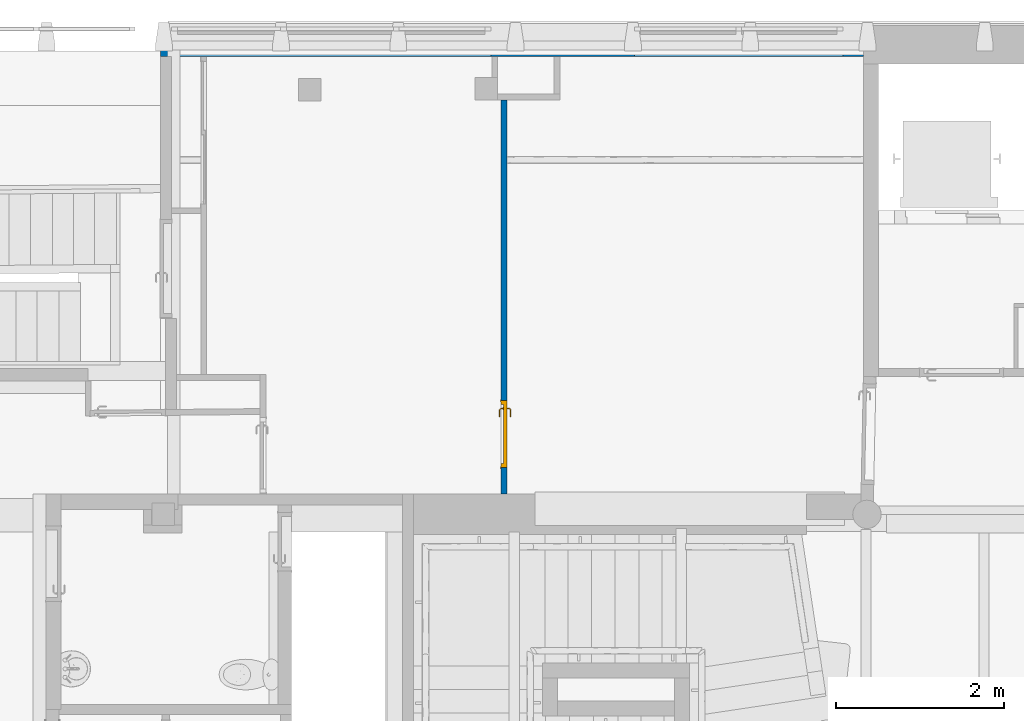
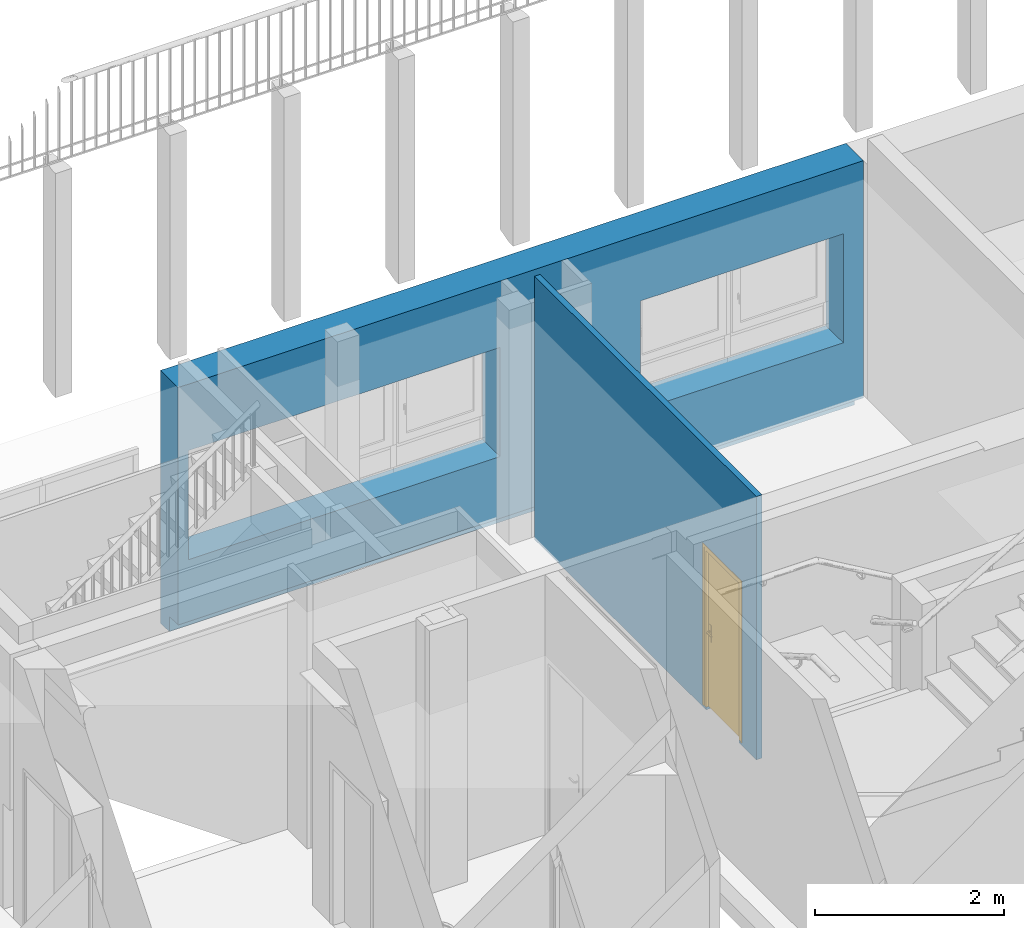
# One storey, part 43 of 65: 2 walls, 1 door, 4 openings.
"""IFC4 building model written with IfcOpenShell, lengths in metres."""

import ifcopenshell
import ifcopenshell.guid

model = None  # the IFC model being written
_history = None  # IfcOwnerHistory: only IFC2X3 demands one
_inside = {}  # id of a spatial element -> (the spatial element, [elements in it])
_under = {}  # id of a project, library or spatial element -> (it, [spatial elements below it])
_declared = {}  # id of a project -> (the project, [libraries it declares])
_typed = {}  # id of a type object -> (the type object, [elements of that type])
_made_of = {}  # id of a material, layer set ... -> (it, [elements and type objects made of it])


def new_model(schema):
    """Start an empty IFC model of exactly this schema.

    Asked for "IFC4X3", IfcOpenShell would pick the latest addendum, in which some entities
    have other attributes; the version numbers below select the first issue.
    IFC2X3 requires an IfcOwnerHistory on every rooted entity: one is made here for all.
    """
    global model, _history
    if schema == "IFC4X3":
        model = ifcopenshell.file(schema_version=(4, 3, 0, 0))
    else:
        model = ifcopenshell.file(schema=schema)
    _inside.clear()
    _under.clear()
    _declared.clear()
    _typed.clear()
    _made_of.clear()
    _history = None
    if model.schema == "IFC2X3":
        org = make("IfcOrganization", Name="unknown")
        user = make(
            "IfcPersonAndOrganization",
            ThePerson=make("IfcPerson", FamilyName="unknown"),
            TheOrganization=org,
        )
        app = make(
            "IfcApplication",
            ApplicationDeveloper=org,
            Version="unknown",
            ApplicationFullName="unknown",
            ApplicationIdentifier="unknown",
        )
        _history = make(
            "IfcOwnerHistory",
            OwningUser=user,
            OwningApplication=app,
            ChangeAction="ADDED",
            CreationDate=0,
        )
    return model


def make(cls, **values):
    """One entity of the class cls with the attributes given. An attribute that is None is left unset."""
    return model.create_entity(
        cls, **{name: value for name, value in values.items() if value is not None}
    )


def entity(cls, *values):
    """Any entity or typed value of the class cls, its attributes in the order of the schema. None: left unset."""
    e = model.create_entity(cls)
    for i, value in enumerate(values):
        if value is not None:
            e[i] = value
    return e


def rooted(cls, **values):
    """An entity with a GlobalId (a new one), such as an element, a storey or a relation."""
    return make(cls, GlobalId=ifcopenshell.guid.new(), OwnerHistory=_history, **values)


def si_unit(unit_type, name, prefix=None):
    """IfcSIUnit, for example si_unit("LENGTHUNIT", "METRE", prefix="MILLI")."""
    return make("IfcSIUnit", UnitType=unit_type, Prefix=prefix, Name=name)


def converted_unit(unit_type, name, factor, base, dimensions=None, offset=None):
    """IfcConversionBasedUnit, such as the inch: factor (a typed value) times the base unit."""
    return make(
        "IfcConversionBasedUnit"
        if offset is None
        else "IfcConversionBasedUnitWithOffset",
        ConversionOffset=offset,
        Dimensions=None
        if dimensions is None
        else entity("IfcDimensionalExponents", *dimensions),
        UnitType=unit_type,
        Name=name,
        ConversionFactor=make(
            "IfcMeasureWithUnit", ValueComponent=factor, UnitComponent=base
        ),
    )


def derived_unit(unit_type, elements):
    """IfcDerivedUnit: a product of units, each with its exponent."""
    return make(
        "IfcDerivedUnit",
        Elements=[
            make("IfcDerivedUnitElement", Unit=unit, Exponent=power)
            for unit, power in elements
        ],
        UnitType=unit_type,
    )


def assignment(units):
    """IfcUnitAssignment: the units of a project."""
    return None if units is None else make("IfcUnitAssignment", Units=units)


def point(xyz):
    """IfcCartesianPoint."""
    return None if xyz is None else make("IfcCartesianPoint", Coordinates=xyz)


def direction(xyz):
    """IfcDirection."""
    return None if xyz is None else make("IfcDirection", DirectionRatios=xyz)


def frame(location, z_axis=None, x_axis=None):
    """IfcAxis2Placement3D, a coordinate frame: its origin and axes. An axis left out is left unset."""
    return make(
        "IfcAxis2Placement3D",
        Location=point(location),
        Axis=direction(z_axis),
        RefDirection=direction(x_axis),
    )


def origin():
    """The frame at (0, 0, 0) with its axes left unset."""
    return frame((0.0, 0.0, 0.0))


def place(relative_to, where):
    """IfcLocalPlacement: puts the frame where relative to a parent placement (None: the world)."""
    return make(
        "IfcLocalPlacement", PlacementRelTo=relative_to, RelativePlacement=where
    )


def context(
    kind, dimensions, precision=None, world=None, true_north=None, identifier=None
):
    """IfcGeometricRepresentationContext, for example the 3D "Model" context."""
    return make(
        "IfcGeometricRepresentationContext",
        ContextIdentifier=identifier,
        ContextType=kind,
        CoordinateSpaceDimension=dimensions,
        Precision=precision,
        WorldCoordinateSystem=world,
        TrueNorth=true_north,
    )


def subcontext(parent, identifier, kind, view, scale=None):
    """IfcGeometricRepresentationSubContext, for example "Body" below "Model"."""
    return make(
        "IfcGeometricRepresentationSubContext",
        ContextIdentifier=identifier,
        ContextType=kind,
        ParentContext=parent,
        TargetScale=scale,
        TargetView=view,
    )


def project(units=None, contexts=None):
    """IfcProject with its units and contexts."""
    return rooted(
        "IfcProject",
        Name="project",
        RepresentationContexts=contexts,
        UnitsInContext=assignment(units),
    )


def spatial(cls, under=None, at=None, **own):
    """A site, building, storey or space (cls), placed at a placement, below another one or the project."""
    s = rooted(cls, ObjectPlacement=at, **own)
    if under is not None:
        _under.setdefault(under.id(), (under, []))[1].append(s)
    return s


def point_list(points):
    """IfcCartesianPointList2D or 3D."""
    cls = (
        "IfcCartesianPointList2D" if len(points[0]) == 2 else "IfcCartesianPointList3D"
    )
    return make(cls, CoordList=points)


def indexed_curve(points, segments=None, self_intersect=None):
    """IfcIndexedPolyCurve: lines and arcs through numbered points (the first is 1)."""
    return make(
        "IfcIndexedPolyCurve",
        Points=point_list(points),
        Segments=segments,
        SelfIntersect=self_intersect,
    )


def outline(outer, holes=None, kind="AREA"):
    """IfcArbitraryClosedProfileDef: a profile drawn as a closed curve; with holes, ...WithVoids."""
    if holes is None:
        return make("IfcArbitraryClosedProfileDef", ProfileType=kind, OuterCurve=outer)
    return make(
        "IfcArbitraryProfileDefWithVoids",
        ProfileType=kind,
        OuterCurve=outer,
        InnerCurves=holes,
    )


def extrude(swept, where, along, depth):
    """IfcExtrudedAreaSolid: the profile swept, set in the frame where, extruded along a direction by depth."""
    return make(
        "IfcExtrudedAreaSolid",
        SweptArea=swept,
        Position=where,
        ExtrudedDirection=direction(along),
        Depth=depth,
    )


def polygons(points, faces, closed=None, point_numbers=None):
    """IfcPolygonalFaceSet: a face is its outer loop, then its inner loops; points numbered from 1."""
    made = []
    for loops in faces:
        if len(loops) == 1:
            made.append(make("IfcIndexedPolygonalFace", CoordIndex=loops[0]))
        else:
            made.append(
                make(
                    "IfcIndexedPolygonalFaceWithVoids",
                    CoordIndex=loops[0],
                    InnerCoordIndices=loops[1:],
                )
            )
    return make(
        "IfcPolygonalFaceSet",
        Coordinates=point_list(points),
        Closed=closed,
        Faces=made,
        PnIndex=point_numbers,
    )


def shape(context_of_items, identifier, shape_type, items):
    """IfcShapeRepresentation: the items that make up one representation, for example the "Body"."""
    return make(
        "IfcShapeRepresentation",
        ContextOfItems=context_of_items,
        RepresentationIdentifier=identifier,
        RepresentationType=shape_type,
        Items=items,
    )


def source(mapping_origin, context_of_items, identifier, shape_type, items):
    """IfcRepresentationMap: a shape defined once, which mapped items show again and again."""
    return make(
        "IfcRepresentationMap",
        MappingOrigin=mapping_origin,
        MappedRepresentation=shape(context_of_items, identifier, shape_type, items),
    )


def transform(
    local_origin,
    x_axis=None,
    y_axis=None,
    z_axis=None,
    scale=None,
    scale2=None,
    scale3=None,
    uniform=True,
):
    """IfcCartesianTransformationOperator3D, or its non-uniform kind. x_axis, y_axis, z_axis: its Axis1, 2, 3."""
    if uniform:
        return make(
            "IfcCartesianTransformationOperator3D",
            Axis1=direction(x_axis),
            Axis2=direction(y_axis),
            LocalOrigin=point(local_origin),
            Scale=scale,
            Axis3=direction(z_axis),
        )
    return make(
        "IfcCartesianTransformationOperator3DnonUniform",
        Axis1=direction(x_axis),
        Axis2=direction(y_axis),
        LocalOrigin=point(local_origin),
        Scale=scale,
        Axis3=direction(z_axis),
        Scale2=scale2,
        Scale3=scale3,
    )


def mapped(mapping_source, mapping_target):
    """IfcMappedItem: shows the shape of a source again, moved by a transform."""
    return make(
        "IfcMappedItem", MappingSource=mapping_source, MappingTarget=mapping_target
    )


def material(Name=None, Category=None):
    """IfcMaterial."""
    return make("IfcMaterial", Name=Name, Category=Category)


def material_list(materials):
    """IfcMaterialList."""
    return make("IfcMaterialList", Materials=materials)


def layer(
    of_material, thickness, ventilated=None, Name=None, Category=None, Priority=None
):
    """IfcMaterialLayer: one layer of a wall or slab, of a material (None: an air gap)."""
    return make(
        "IfcMaterialLayer",
        Material=of_material,
        LayerThickness=thickness,
        IsVentilated=ventilated,
        Name=Name,
        Category=Category,
        Priority=Priority,
    )


def layer_set(layers, Name=None):
    """IfcMaterialLayerSet."""
    return make("IfcMaterialLayerSet", MaterialLayers=layers, LayerSetName=Name)


def constituent(of_material, Name=None, Category=None, fraction=None):
    """IfcMaterialConstituent: one of the materials an element consists of."""
    return make(
        "IfcMaterialConstituent",
        Name=Name,
        Material=of_material,
        Fraction=fraction,
        Category=Category,
    )


def constituent_set(constituents=None, Name=None):
    """IfcMaterialConstituentSet."""
    return make(
        "IfcMaterialConstituentSet", Name=Name, MaterialConstituents=constituents
    )


def made_of(thing, what):
    """Note that an element or type object is made of a material, layer set ...; save() writes the relation."""
    if what is not None:
        _made_of.setdefault(what.id(), (what, []))[1].append(thing)
    return thing


def type_object(cls, material=None, **own):
    """A type object (cls), such as IfcWallType, which elements share."""
    return made_of(rooted(cls, **own), material)


def type_shapes(of_type, sources):
    """Give a type object the sources (RepresentationMaps) that its elements show as mapped items."""
    of_type.RepresentationMaps = sources


def element(
    cls,
    number,
    at=None,
    inside=None,
    cuts=None,
    type_object=None,
    material=None,
    context=None,
    identifier="Body",
    shape_type=None,
    held_by="IfcProductDefinitionShape",
    body=None,
    shapes=None,
    **own,
):
    """One element of the class cls, such as IfcWall. Its Tag is "e" and its number.

    at: its placement. inside: the storey or other place that contains it. cuts: it is an
    opening in that element (IfcRelVoidsElement). A single representation is given by context,
    identifier, shape_type and body (its items); several are given by shapes. held_by: the class
    of the entity that holds the representations. save() writes the other relations.
    """
    e = rooted(cls, Tag="e%d" % number, ObjectPlacement=at, **own)
    if body is not None:
        shapes = [shape(context, identifier, shape_type, body)]
    if shapes is not None:
        e.Representation = make(held_by, Representations=shapes)
    if inside is not None:
        _inside.setdefault(inside.id(), (inside, []))[1].append(e)
    if cuts is not None:
        rooted(
            "IfcRelVoidsElement", RelatingBuildingElement=cuts, RelatedOpeningElement=e
        )
    if type_object is not None:
        _typed.setdefault(type_object.id(), (type_object, []))[1].append(e)
    return made_of(e, material)


def fill(opening, filler):
    """IfcRelFillsElement: the door or window that sits in an opening."""
    return rooted(
        "IfcRelFillsElement",
        RelatingOpeningElement=opening,
        RelatedBuildingElement=filler,
    )


def aggregate(whole, parts):
    """IfcRelAggregates: a whole, such as a stair, and the parts it consists of."""
    return rooted("IfcRelAggregates", RelatingObject=whole, RelatedObjects=parts)


def save(model, path):
    """Write the relations noted so far, then the file.

    IfcRelAggregates (storeys below a building ...), IfcRelContainedInSpatialStructure (elements
    in a storey), IfcRelDefinesByType, IfcRelAssociatesMaterial and IfcRelDeclares: one each for
    every whole, place, type object, material and project.
    """
    for whole, parts in _under.values():
        aggregate(whole, parts)
    for where, things in _inside.values():
        rooted(
            "IfcRelContainedInSpatialStructure",
            RelatedElements=things,
            RelatingStructure=where,
        )
    for kind, things in _typed.values():
        rooted("IfcRelDefinesByType", RelatedObjects=things, RelatingType=kind)
    for what, things in _made_of.values():
        rooted("IfcRelAssociatesMaterial", RelatedObjects=things, RelatingMaterial=what)
    for by, libraries in _declared.values():
        rooted("IfcRelDeclares", RelatingContext=by, RelatedDefinitions=libraries)
    model.write(path)


model = new_model("IFC4")

# Units and contexts
model_context = context("Model", 3, precision=1e-05, world=origin(), true_north=direction((6.12303176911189e-17, 1.0)))
body_context = subcontext(model_context, "Body", "Model", "MODEL_VIEW")
ifc_project = project(units=[si_unit("LENGTHUNIT", "METRE"), si_unit("AREAUNIT", "SQUARE_METRE"), si_unit("VOLUMEUNIT", "CUBIC_METRE"), converted_unit("PLANEANGLEUNIT", "DEGREE", entity("IfcRatioMeasure", 0.0174532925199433), si_unit("PLANEANGLEUNIT", "RADIAN"), dimensions=[0, 0, 0, 0, 0, 0, 0]), si_unit("MASSUNIT", "GRAM", prefix="KILO"), derived_unit("MASSDENSITYUNIT", [(si_unit("MASSUNIT", "GRAM", prefix="KILO"), 1), (si_unit("LENGTHUNIT", "METRE"), -3)]), derived_unit("MOMENTOFINERTIAUNIT", [(si_unit("LENGTHUNIT", "METRE"), 4)]), si_unit("TIMEUNIT", "SECOND"), si_unit("FREQUENCYUNIT", "HERTZ"), si_unit("THERMODYNAMICTEMPERATUREUNIT", "DEGREE_CELSIUS"), derived_unit("THERMALTRANSMITTANCEUNIT", [(si_unit("MASSUNIT", "GRAM", prefix="KILO"), 1), (si_unit("THERMODYNAMICTEMPERATUREUNIT", "KELVIN"), -1), (si_unit("TIMEUNIT", "SECOND"), -3)]), derived_unit("VOLUMETRICFLOWRATEUNIT", [(si_unit("LENGTHUNIT", "METRE"), 3), (si_unit("TIMEUNIT", "SECOND"), -1)]), si_unit("ELECTRICCURRENTUNIT", "AMPERE"), si_unit("ELECTRICVOLTAGEUNIT", "VOLT"), si_unit("POWERUNIT", "WATT"), si_unit("FORCEUNIT", "NEWTON", prefix="KILO"), si_unit("ILLUMINANCEUNIT", "LUX"), si_unit("LUMINOUSFLUXUNIT", "LUMEN"), si_unit("LUMINOUSINTENSITYUNIT", "CANDELA"), derived_unit("USERDEFINED", [(si_unit("MASSUNIT", "GRAM", prefix="KILO"), -1), (si_unit("LENGTHUNIT", "METRE"), -2), (si_unit("TIMEUNIT", "SECOND"), 3), (si_unit("LUMINOUSFLUXUNIT", "LUMEN"), 1)]), derived_unit("LINEARVELOCITYUNIT", [(si_unit("LENGTHUNIT", "METRE"), 1), (si_unit("TIMEUNIT", "SECOND"), -1)]), si_unit("PRESSUREUNIT", "PASCAL"), derived_unit("USERDEFINED", [(si_unit("LENGTHUNIT", "METRE"), -2), (si_unit("MASSUNIT", "GRAM", prefix="KILO"), 1), (si_unit("TIMEUNIT", "SECOND"), -2)]), derived_unit("LINEARFORCEUNIT", [(si_unit("MASSUNIT", "GRAM", prefix="KILO"), 1), (si_unit("LENGTHUNIT", "METRE"), 1), (si_unit("TIMEUNIT", "SECOND"), -2), (si_unit("LENGTHUNIT", "METRE"), -1)]), derived_unit("PLANARFORCEUNIT", [(si_unit("MASSUNIT", "GRAM", prefix="KILO"), 1), (si_unit("LENGTHUNIT", "METRE"), 1), (si_unit("TIMEUNIT", "SECOND"), -2), (si_unit("LENGTHUNIT", "METRE"), -2)])], contexts=[model_context])

# Site, building, storey
site_placement = place(None, origin())
site = spatial("IfcSite", under=ifc_project, at=site_placement, Name="Default", CompositionType="ELEMENT")
building_placement = place(site_placement, origin())
building = spatial("IfcBuilding", under=site, at=building_placement, Name="HOTEL CONSULAIRE BOULOGNE SUR MER", CompositionType="ELEMENT")
storey_placement = place(building_placement, origin())
storey = spatial("IfcBuildingStorey", under=building, at=storey_placement, Name="Niveau 0", CompositionType="ELEMENT", Elevation=1.31981936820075e-13)

# Wall, openings, door
ifc_material_1 = material(Name="Mur par défaut", Category="Divers")
ifc_layer_1 = layer(ifc_material_1, 0.07, Name="Mur par défaut", Category="Divers")
ifc_layer_set_1 = layer_set([ifc_layer_1], Name="Mur de base:Int. Plâtre 70 mm")
wall_type_1 = type_object("IfcWallType", Name="Mur de base:Int. Plâtre 70 mm", PredefinedType="NOTDEFINED", material=ifc_layer_set_1)
wall_1_placement = place(storey_placement, frame((2.83735114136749, -15.3752420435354, -0.0200000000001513), z_axis=(0.0, 0.0, 1.0), x_axis=(0.0, 1.0, 0.0)))
wall_1 = element("IfcWall", 1, at=wall_1_placement, inside=storey, type_object=wall_type_1, material=ifc_layer_set_1, Name="Mur de base:Int. Plâtre 70 mm", ObjectType="Mur de base:Int. Plâtre 70 mm", PredefinedType="NOTDEFINED", context=body_context, shape_type="Tessellation", body=[
    polygons([(0.317999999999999, 0.0350000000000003, 0.0350000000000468), (0.317999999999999, -0.0349999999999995, 0.0350000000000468), (0.368000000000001, -0.0349999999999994, 0.0350000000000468), (0.368000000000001, 0.0350000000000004, 0.0350000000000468), (4.70432333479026, 0.035, -2.15727435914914e-16), (4.70432333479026, -0.0349999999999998, -2.15727435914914e-16), (1.068, -0.0349999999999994, -2.15727435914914e-16), (1.068, 0.0350000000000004, -2.15727435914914e-16), (0.317999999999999, -0.0349999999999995, 2.11000000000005), (1.118, -0.0349999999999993, 2.11000000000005), (1.118, -0.0349999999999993, 0.0350000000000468), (1.068, -0.0349999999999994, 0.0350000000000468), (4.70432333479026, -0.0349999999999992, 0.0350000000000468), (4.70432333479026, -0.0349999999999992, 3.40652697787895), (0.0, -0.0349999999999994, 3.40652697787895), (0.0, -0.0349999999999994, 0.0350000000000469), (0.0, -0.0349999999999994, -2.15727435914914e-16), (0.368000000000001, -0.0349999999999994, -2.15727435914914e-16), (0.317999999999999, 0.0350000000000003, 2.11000000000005), (0.368000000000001, 0.0350000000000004, -2.15727435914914e-16), (0.0, 0.0350000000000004, -2.15727435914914e-16), (0.0, 0.0350000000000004, 0.0350000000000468), (0.0, 0.0350000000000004, 3.40652697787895), (4.70432333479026, 0.0350000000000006, 3.40652697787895), (4.70432333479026, 0.0350000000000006, 0.0350000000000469), (1.068, 0.0350000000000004, 0.0350000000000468), (1.118, 0.0350000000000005, 0.0350000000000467), (1.118, 0.0350000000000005, 2.11000000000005)], [[[3, 4, 1, 2]], [[11, 27, 26, 12]], [[23, 15, 14, 24]], [[6, 7, 8, 5]], [[18, 17, 21, 20]], [[9, 19, 28, 10]], [[16, 17, 18, 3, 2, 9, 10, 11, 12, 7, 6, 13, 14, 15]], [[25, 5, 8, 26, 27, 28, 19, 1, 4, 20, 21, 22, 23, 24]], [[13, 6, 5, 25, 24, 14]], [[2, 1, 19, 9]], [[3, 18, 20, 4]], [[11, 10, 28, 27]], [[22, 21, 17, 16, 15, 23]], [[26, 8, 7, 12]]], closed=True),
])
opening_1_placement = place(storey_placement, frame((2.83735114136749, -15.3752420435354, -0.0200000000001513), z_axis=(0.0, 0.0, 1.0), x_axis=(0.0, 1.0, 0.0)))
element("IfcOpeningElement", 2, at=opening_1_placement, cuts=wall_1, Name="Mur de base:Int. Plâtre 70 mm:1", ObjectType="Opening", PredefinedType="OPENING", context=body_context, shape_type="SweptSolid", body=[
    extrude(outline(indexed_curve([(-0.0175000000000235, -0.0350000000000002), (0.0175000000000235, -0.0350000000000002), (0.0175000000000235, 0.0349999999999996), (-0.0175000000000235, 0.0349999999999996), (-0.0175000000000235, -0.0350000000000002)], self_intersect=False)), frame((0.368000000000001, 0.0, 0.0175000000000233), z_axis=(1.0, 0.0, 0.0), x_axis=(0.0, 0.0, -1.0)), (0.0, 0.0, 1.0), 0.699999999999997),
])
opening_2_placement = place(wall_1_placement, frame((1.118, 0.0349999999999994, 0.0350000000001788)))
opening_2 = element("IfcOpeningElement", 3, at=opening_2_placement, cuts=wall_1, Name="Int. Simple:PP (0.73m x 2.04m):1", ObjectType="Opening", PredefinedType="OPENING", context=body_context, shape_type="SweptSolid", body=[
    extrude(outline(indexed_curve([(0.0, 0.799999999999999), (0.0, -6.50027566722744e-33), (2.075, -6.50027566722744e-33), (2.075, 0.799999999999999), (0.0, 0.799999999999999)], self_intersect=False)), frame((0.0, 0.0, 0.0), z_axis=(0.0, -1.0, 0.0), x_axis=(0.0, 0.0, 1.0)), (0.0, 0.0, 1.0), 0.07),
])
ifc_material_2 = material(Name="Finition Peinture - Blanc satiné", Category="Peinture")
ifc_constituent_1 = constituent(ifc_material_2, Name="Finition Peinture - Blanc satiné", Category="Matériaux")
ifc_material_3 = material(Name="Bois - Panneau de porte", Category="Bois")
ifc_constituent_2 = constituent(ifc_material_3, Name="Bois - Panneau de porte", Category="Matériaux")
ifc_material_4 = material(Name="Bois - Cadre de porte", Category="Bois")
ifc_constituent_3 = constituent(ifc_material_4, Name="Bois - Cadre de porte", Category="Matériaux")
ifc_constituent_set = constituent_set(constituents=[ifc_constituent_1, ifc_constituent_2, ifc_constituent_3], Name="MaterialConstituentSet")
ifc_material_list = material_list([ifc_material_2, ifc_material_3, ifc_material_4, ifc_material_4])
door_type = type_object("IfcDoorType", Name="Int. Simple:PP (0.73m x 2.04m)", OperationType="NOTDEFINED", PredefinedType="DOOR", material=ifc_material_list)
shared_shape = source(origin(), body_context, "Body", "Tessellation", [
    polygons([(0.795000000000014, -0.00500000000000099, 0.870000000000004), (0.795000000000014, -0.00500000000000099, 1.08), (0.785352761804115, -0.00500000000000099, 1.08399601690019), (0.775000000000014, -0.00500000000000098, 1.08535898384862), (0.764647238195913, -0.00500000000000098, 1.08399601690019), (0.755000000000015, -0.00500000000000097, 1.08), (0.755000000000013, -0.00500000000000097, 0.870000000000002), (0.764647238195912, -0.00500000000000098, 0.866003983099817), (0.775000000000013, -0.00500000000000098, 0.86464101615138), (0.785352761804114, -0.00500000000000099, 0.866003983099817), (0.795000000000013, -9.98268134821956e-16, 0.870000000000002), (0.785352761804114, -9.94038185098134e-16, 0.866003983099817), (0.775000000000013, -9.89808235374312e-16, 0.86464101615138), (0.764647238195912, -9.8557828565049e-16, 0.866003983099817), (0.755000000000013, -9.81348335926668e-16, 0.870000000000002), (0.755000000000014, -9.81348335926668e-16, 1.08), (0.764647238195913, -9.8557828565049e-16, 1.08399601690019), (0.775000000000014, -9.89808235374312e-16, 1.08535898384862), (0.785352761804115, -9.94038185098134e-16, 1.08399601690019), (0.795000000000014, -9.98268134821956e-16, 1.08)], [[[1, 2, 3, 4, 5, 6, 7, 8, 9, 10]], [[20, 11, 12, 13, 14, 15, 16, 17, 18, 19]], [[10, 12, 11, 1]], [[9, 13, 12, 10]], [[8, 14, 13, 9]], [[8, 7, 15, 14]], [[15, 7, 6, 16]], [[5, 17, 16, 6]], [[4, 18, 17, 5]], [[3, 19, 18, 4]], [[3, 2, 20, 19]], [[11, 20, 2, 1]]], closed=True),
    polygons([(0.755000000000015, 0.039999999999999, 1.08), (0.755000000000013, 0.039999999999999, 0.870000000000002), (0.764647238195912, 0.039999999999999, 0.866003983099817), (0.775000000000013, 0.039999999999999, 0.86464101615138), (0.785352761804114, 0.039999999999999, 0.866003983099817), (0.795000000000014, 0.039999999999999, 0.870000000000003), (0.795000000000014, 0.039999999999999, 1.08), (0.785352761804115, 0.039999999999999, 1.08399601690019), (0.775000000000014, 0.039999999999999, 1.08535898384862), (0.764647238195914, 0.039999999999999, 1.08399601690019), (0.755000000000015, 0.044999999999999, 1.08), (0.764647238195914, 0.044999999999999, 1.08399601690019), (0.775000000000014, 0.044999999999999, 1.08535898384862), (0.785352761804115, 0.044999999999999, 1.08399601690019), (0.795000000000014, 0.044999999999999, 1.08), (0.795000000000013, 0.044999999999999, 0.870000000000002), (0.785352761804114, 0.044999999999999, 0.866003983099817), (0.775000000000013, 0.044999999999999, 0.86464101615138), (0.764647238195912, 0.044999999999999, 0.866003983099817), (0.755000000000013, 0.044999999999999, 0.870000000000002)], [[[6, 7, 8, 9, 10, 1, 2, 3, 4, 5]], [[13, 14, 15, 16, 17, 18, 19, 20, 11, 12]], [[10, 12, 11, 1]], [[9, 13, 12, 10]], [[8, 14, 13, 9]], [[8, 7, 15, 14]], [[16, 15, 7, 6]], [[5, 17, 16, 6]], [[4, 18, 17, 5]], [[3, 19, 18, 4]], [[3, 2, 20, 19]], [[20, 2, 1, 11]]], closed=True),
    polygons([(0.781000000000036, -0.00500000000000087, 1.00699999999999), (0.781000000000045, -0.00500000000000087, 0.992999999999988), (0.777025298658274, -0.00500000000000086, 0.99221955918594), (0.772974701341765, -0.00500000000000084, 0.992219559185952), (0.768999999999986, -0.00500000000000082, 0.993000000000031), (0.768999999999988, -0.00500000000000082, 1.007), (0.772974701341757, -0.00500000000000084, 1.00778044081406), (0.777025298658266, -0.00500000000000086, 1.00778044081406), (0.768999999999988, -0.0276803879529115, 1.007), (0.772974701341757, -0.0293267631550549, 1.00778044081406), (0.777025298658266, -0.0310045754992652, 1.00778044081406), (0.781000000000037, -0.0326509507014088, 1.007), (0.768999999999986, -0.0276803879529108, 0.993000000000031), (0.781000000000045, -0.0326509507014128, 0.992999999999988), (0.777025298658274, -0.0310045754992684, 0.99221955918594), (0.772974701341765, -0.0293267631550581, 0.992219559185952), (0.757652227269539, -0.0390281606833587, 1.007), (0.759298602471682, -0.0430028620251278, 1.00778044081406), (0.760976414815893, -0.047053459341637, 1.00778044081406), (0.762622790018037, -0.051028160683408, 1.007), (0.757652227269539, -0.0390281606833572, 0.993000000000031), (0.76262279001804, -0.0510281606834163, 0.992999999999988), (0.760976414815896, -0.0470534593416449, 0.99221955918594), (0.759298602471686, -0.0430028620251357, 0.992219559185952), (0.674981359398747, -0.0510281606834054, 1.007), (0.674981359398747, -0.0470534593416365, 1.00778044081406), (0.674981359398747, -0.0430028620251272, 1.00778044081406), (0.674981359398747, -0.0390281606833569, 1.00699999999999), (0.674981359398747, -0.0390281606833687, 0.993000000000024), (0.674981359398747, -0.0430028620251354, 0.992219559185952), (0.674981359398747, -0.0470534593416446, 0.99221955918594), (0.674981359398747, -0.0510281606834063, 0.992999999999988), (0.722692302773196, -0.0510281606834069, 1.007), (0.71713998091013, -0.0450281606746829, 1.0078786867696), (0.716316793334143, -0.0390281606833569, 1.007), (0.722692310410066, -0.0510281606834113, 0.992999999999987), (0.717139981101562, -0.0450281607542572, 0.992121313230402), (0.716316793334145, -0.0390281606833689, 0.993000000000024)], [[[7, 8, 1, 2, 3, 4, 5, 6]], [[17, 21, 38, 29, 28, 35]], [[1, 8, 11, 12]], [[8, 7, 10, 18, 19, 11]], [[7, 6, 9, 10]], [[13, 9, 6, 5]], [[25, 26, 27, 28, 29, 30, 31, 32]], [[4, 16, 13, 5]], [[4, 3, 15, 23, 24, 16]], [[2, 14, 15, 3]], [[12, 14, 2, 1]], [[12, 11, 19, 20]], [[10, 9, 17, 18]], [[21, 17, 9, 13]], [[13, 16, 24, 21]], [[15, 14, 22, 23]], [[20, 22, 14, 12]], [[34, 26, 33]], [[33, 26, 25]], [[33, 20, 19]], [[18, 35, 34]], [[35, 18, 17]], [[28, 27, 35]], [[34, 27, 26]], [[34, 35, 27]], [[34, 33, 19]], [[18, 34, 19]], [[37, 30, 38]], [[31, 37, 36]], [[24, 38, 21]], [[30, 29, 38]], [[31, 36, 32]], [[36, 23, 22]], [[37, 23, 36]], [[37, 24, 23]], [[37, 38, 24]], [[30, 37, 31]], [[22, 20, 33, 25, 32, 36]]], closed=True),
    polygons([(0.768999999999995, 0.0449999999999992, 0.993000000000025), (0.772974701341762, 0.0449999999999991, 0.992219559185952), (0.777025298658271, 0.0449999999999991, 0.99221955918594), (0.781000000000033, 0.0449999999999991, 0.992999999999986), (0.781000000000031, 0.0449999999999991, 1.007), (0.777025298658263, 0.0449999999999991, 1.00778044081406), (0.772974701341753, 0.0449999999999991, 1.00778044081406), (0.768999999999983, 0.0449999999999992, 1.007), (0.768999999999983, 0.0674852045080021, 1.007), (0.768999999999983, 0.0674852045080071, 0.993000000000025), (0.781000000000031, 0.0724557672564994, 1.007), (0.777025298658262, 0.070809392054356, 1.00778044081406), (0.772974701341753, 0.0691315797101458, 1.00778044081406), (0.781000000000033, 0.0724557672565, 0.992999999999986), (0.772974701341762, 0.0691315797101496, 0.992219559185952), (0.777025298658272, 0.0708093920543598, 0.99221955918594), (0.757514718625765, 0.0789704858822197, 1.007), (0.757514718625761, 0.0789704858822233, 0.993000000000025), (0.762485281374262, 0.0909704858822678, 1.007), (0.760838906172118, 0.0869957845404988, 1.00778044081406), (0.759161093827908, 0.0829451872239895, 1.00778044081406), (0.762485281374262, 0.0909704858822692, 0.992999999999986), (0.759161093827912, 0.0829451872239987, 0.992219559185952), (0.760838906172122, 0.0869957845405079, 0.99221955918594), (0.674954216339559, 0.07897048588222, 0.993000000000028), (0.674954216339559, 0.0789704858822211, 1.007), (0.674954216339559, 0.0829451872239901, 1.00778044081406), (0.674954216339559, 0.0869957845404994, 1.00778044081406), (0.674954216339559, 0.0909704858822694, 1.007), (0.674954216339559, 0.0909704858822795, 0.992999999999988), (0.674954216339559, 0.0869957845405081, 0.99221955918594), (0.674954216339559, 0.0829451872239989, 0.992219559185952), (0.722554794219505, 0.0909704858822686, 1.007), (0.717057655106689, 0.0849704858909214, 1.0078786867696), (0.716234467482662, 0.0789704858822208, 1.007), (0.722554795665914, 0.0909704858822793, 0.992999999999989), (0.717057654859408, 0.0849704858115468, 0.992121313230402), (0.716234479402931, 0.0789704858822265, 0.993000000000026)], [[[2, 3, 4, 5, 6, 7, 8, 1]], [[18, 17, 35, 26, 25, 38]], [[9, 10, 1, 8]], [[27, 28, 29, 30, 31, 32, 25, 26]], [[7, 13, 9, 8]], [[7, 6, 12, 20, 21, 13]], [[5, 11, 12, 6]], [[11, 5, 4, 14]], [[4, 3, 16, 14]], [[3, 2, 15, 23, 24, 16]], [[2, 1, 10, 15]], [[17, 18, 10, 9]], [[9, 13, 21, 17]], [[11, 19, 20, 12]], [[22, 19, 11, 14]], [[14, 16, 24, 22]], [[15, 10, 18, 23]], [[34, 27, 35]], [[28, 34, 33]], [[21, 35, 17]], [[27, 26, 35]], [[28, 33, 29]], [[33, 20, 19]], [[34, 20, 33]], [[34, 21, 20]], [[34, 35, 21]], [[27, 34, 28]], [[19, 22, 36, 30, 29, 33]], [[37, 31, 36]], [[36, 31, 30]], [[36, 22, 24]], [[23, 38, 37]], [[38, 23, 18]], [[25, 32, 38]], [[37, 32, 31]], [[37, 38, 32]], [[37, 36, 24]], [[23, 37, 24]]], closed=True),
    polygons([(0.835000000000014, 0.0400000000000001, 2.04), (0.835000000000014, 0.0400000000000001, 0.0), (0.105000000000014, 0.0400000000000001, 0.0), (0.105000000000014, 0.0400000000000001, 2.04), (0.835000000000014, 1.01518793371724e-16, 2.04), (0.105000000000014, 1.01518793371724e-16, 2.04), (0.105000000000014, 1.01518793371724e-16, 0.0), (0.835000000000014, 1.01518793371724e-16, 0.0)], [[[4, 1, 2, 3]], [[5, 6, 7, 8]], [[5, 1, 4, 6]], [[6, 4, 3, 7]], [[7, 3, 2, 8]], [[8, 2, 1, 5]]], closed=True),
    polygons([(0.870000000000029, -4.22994972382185e-18, 0.0), (0.835000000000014, -4.22994972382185e-18, 0.0), (0.835000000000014, 0.04, 0.0), (0.820000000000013, 0.04, 0.0), (0.820000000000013, 0.0699999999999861, 0.0), (0.870000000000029, 0.0699999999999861, 0.0), (0.870000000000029, 0.0699999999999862, 2.07500000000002), (0.870000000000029, -4.22994972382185e-18, 2.07500000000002), (0.820000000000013, 0.0699999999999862, 2.025), (0.120000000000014, 0.0699999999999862, 2.025), (0.120000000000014, 0.0699999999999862, 1.94408790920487e-25), (0.0699999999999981, 0.0699999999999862, -1.94409531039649e-24), (0.0699999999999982, 0.0699999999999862, 2.07500000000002), (0.820000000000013, 0.04, 2.025), (0.835000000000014, 0.04, 2.04), (0.105000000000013, 0.04, 2.04), (0.105000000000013, 0.04, -5.27905452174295e-25), (0.120000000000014, 0.04, 2.19130565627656e-24), (0.120000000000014, 0.04, 2.025), (0.835000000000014, -4.22994972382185e-18, 2.04), (0.0699999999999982, -4.22994972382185e-18, 2.07500000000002), (0.0699999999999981, -4.22994972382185e-18, -4.03399547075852e-24), (0.105000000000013, -4.22994972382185e-18, -8.70077324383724e-25), (0.105000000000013, -4.22994972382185e-18, 2.04)], [[[4, 5, 6, 1, 2, 3]], [[17, 23, 22, 12, 11, 18]], [[19, 10, 9, 14]], [[24, 16, 15, 20]], [[8, 1, 6, 7]], [[11, 10, 19, 18]], [[23, 17, 16, 24]], [[9, 10, 11, 12, 13, 7, 6, 5]], [[9, 5, 4, 14]], [[15, 3, 2, 20]], [[22, 21, 13, 12]], [[19, 14, 4, 3, 15, 16, 17, 18]], [[24, 20, 2, 1, 8, 21, 22, 23]], [[13, 21, 8, 7]]], closed=True),
    polygons([(0.855000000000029, 0.0699999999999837, 0.0), (0.855000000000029, 0.0749999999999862, 0.0), (0.885000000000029, 0.0749999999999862, 0.0), (0.885000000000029, 0.0699999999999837, 0.0), (0.885000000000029, 0.0699999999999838, 2.09000000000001), (0.055000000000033, 0.0699999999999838, 2.09000000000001), (0.055000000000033, 0.0699999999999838, -1.52743425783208e-24), (0.0850000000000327, 0.0699999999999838, 5.63975966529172e-24), (0.0850000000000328, 0.0699999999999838, 2.06000000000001), (0.855000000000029, 0.0699999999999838, 2.06000000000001), (0.885000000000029, 0.0749999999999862, 2.09000000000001), (0.855000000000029, 0.0749999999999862, 2.06000000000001), (0.0850000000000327, 0.0749999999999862, 2.06000000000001), (0.0850000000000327, 0.0749999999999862, 4.03399441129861e-24), (0.055000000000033, 0.0749999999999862, 0.0), (0.0550000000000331, 0.0749999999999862, 2.09000000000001)], [[[2, 3, 4, 1]], [[7, 15, 14, 8]], [[13, 12, 10, 9]], [[9, 10, 1, 4, 5, 6, 7, 8]], [[11, 5, 4, 3]], [[8, 14, 13, 9]], [[12, 13, 14, 15, 16, 11, 3, 2]], [[10, 12, 2, 1]], [[7, 6, 16, 15]], [[6, 5, 11, 16]]], closed=True),
    polygons([(0.0850000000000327, -0.005, 5.41433564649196e-16), (0.055000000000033, -0.005, 5.41433564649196e-16), (0.055000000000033, -8.33300095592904e-16, 5.41433564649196e-16), (0.0850000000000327, -8.33300095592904e-16, 5.41433564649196e-16), (0.855000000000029, -0.005, 0.0), (0.855000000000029, -8.33300095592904e-16, 0.0), (0.885000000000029, -8.33300095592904e-16, 0.0), (0.885000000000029, -0.005, 0.0), (0.885000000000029, -0.005, 2.09000000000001), (0.055000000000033, -0.005, 2.09000000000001), (0.0850000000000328, -0.005, 2.06000000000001), (0.855000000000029, -0.005, 2.06000000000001), (0.885000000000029, -8.33300095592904e-16, 2.09000000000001), (0.855000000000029, -8.33300095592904e-16, 2.06000000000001), (0.0850000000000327, -8.33300095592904e-16, 2.06000000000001), (0.0550000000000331, -8.33300095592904e-16, 2.09000000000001)], [[[2, 3, 4, 1]], [[6, 7, 8, 5]], [[15, 14, 12, 11]], [[11, 12, 5, 8, 9, 10, 2, 1]], [[9, 8, 7, 13]], [[1, 4, 15, 11]], [[14, 15, 4, 3, 16, 13, 7, 6]], [[14, 6, 5, 12]], [[3, 2, 10, 16]], [[10, 9, 13, 16]]], closed=True),
])
type_shapes(door_type, [shared_shape])
door_placement = place(opening_2_placement, frame((-0.870000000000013, -0.0700000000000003, 0.0)))
door = element("IfcDoor", 4, at=door_placement, inside=storey, type_object=door_type, material=ifc_constituent_set, Name="Int. Simple:PP (0.73m x 2.04m)", ObjectType="Int. Simple:PP (0.73m x 2.04m)", OperationType="NOTDEFINED", OverallHeight=2.075, OverallWidth=0.8, PredefinedType="DOOR", context=body_context, shape_type="MappedRepresentation", body=[
    mapped(shared_shape, transform((0.0, 0.0, 0.0), scale=1.0)),
])
fill(opening_2, door)

# Wall, openings
ifc_layer_2 = layer(ifc_material_1, 0.37, Name="Mur par défaut", Category="Divers")
ifc_layer_set_2 = layer_set([ifc_layer_2], Name="Mur de base:Générique - Ext.370")
wall_type_2 = type_object("IfcWallType", Name="Mur de base:Générique - Ext.370", PredefinedType="NOTDEFINED", material=ifc_layer_set_2)
wall_2_placement = place(storey_placement, frame((-1.2594235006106, -9.96532416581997, -0.220000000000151)))
wall_2 = element("IfcWall", 5, at=wall_2_placement, inside=storey, type_object=wall_type_2, material=ifc_layer_set_2, Name="Mur de base:Générique - Ext.370", ObjectType="Mur de base:Générique - Ext.370", PredefinedType="NOTDEFINED", context=body_context, shape_type="Tessellation", body=[
    polygons([(8.38840376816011, -0.185000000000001, 3.27110477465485), (4.76454120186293, -0.185000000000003, 3.27110477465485), (4.69454120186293, -0.185000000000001, 3.27110477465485), (4.0237746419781, -0.185000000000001, 3.27110477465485), (3.9537746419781, -0.185000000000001, 3.27110477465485), (6.70141646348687e-16, -0.185000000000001, 3.27110477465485), (6.70141646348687e-16, -0.185000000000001, 0.200000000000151), (0.129999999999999, -0.185000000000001, 0.200000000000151), (0.480607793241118, -0.185000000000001, 0.200000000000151), (0.55060779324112, -0.185000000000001, 0.200000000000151), (3.9537746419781, -0.185000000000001, 0.200000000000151), (4.0237746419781, -0.185000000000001, 0.200000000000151), (4.69454120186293, -0.185000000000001, 0.200000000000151), (4.76454120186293, -0.185000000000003, 0.200000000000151), (8.38840376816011, -0.185000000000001, 0.200000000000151), (0.129999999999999, -0.185000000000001, 0.999733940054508), (0.129999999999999, -0.185000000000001, 2.41100000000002), (3.9412884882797, -0.185000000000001, 2.41100000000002), (3.9412884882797, -0.185000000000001, 0.999733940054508), (5.658, -0.185000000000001, 0.999733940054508), (5.658, -0.185000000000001, 2.41100000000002), (8.143, -0.185000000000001, 2.41100000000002), (8.143, -0.185000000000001, 0.999733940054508), (8.38840376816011, 0.184999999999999, -2.03037586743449e-16), (1.37069383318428e-15, 0.184999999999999, -2.03037586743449e-16), (1.37069383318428e-15, 0.184999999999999, 3.27110477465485), (8.38840376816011, 0.184999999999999, 3.27110477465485), (0.13, 0.184999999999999, 2.41100000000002), (0.13, 0.184999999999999, 0.999733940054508), (3.9412884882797, 0.184999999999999, 0.999733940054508), (3.9412884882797, 0.184999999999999, 2.41100000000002), (5.658, 0.184999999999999, 2.41100000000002), (5.658, 0.184999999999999, 0.999733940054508), (8.143, 0.184999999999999, 0.999733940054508), (8.143, 0.184999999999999, 2.41100000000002), (8.38840376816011, 8.22979018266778e-14, -2.03037586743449e-16), (4.78984175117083e-16, 4.98118879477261e-14, -2.03037586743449e-16), (5.47743428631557e-16, 0.0509999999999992, -2.03037586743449e-16), (8.38840376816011, 8.22979018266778e-14, 0.200000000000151), (4.78984175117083e-16, 4.98118879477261e-14, 0.200000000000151)], [[[8, 9, 10, 11, 12, 13, 14, 15, 1, 2, 3, 4, 5, 6, 7], [21, 22, 23, 20], [16, 17, 18, 19]], [[40, 37, 36, 39]], [[24, 25, 26, 27], [34, 35, 32, 33], [30, 31, 28, 29]], [[36, 37, 38, 25, 24]], [[18, 17, 28, 31]], [[22, 21, 32, 35]], [[13, 12, 11, 10, 9, 8, 7, 40, 39, 15, 14]], [[1, 15, 39, 36, 24, 27]], [[16, 29, 28, 17]], [[21, 20, 33, 32]], [[3, 2, 1, 27, 26, 6, 5, 4]], [[19, 30, 29, 16]], [[23, 34, 33, 20]], [[40, 7, 6, 26, 25, 38, 37]], [[18, 31, 30, 19]], [[22, 35, 34, 23]]], closed=True),
])
opening_3_placement = place(wall_2_placement, frame((0.13, -0.337400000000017, 0.999733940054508)))
element("IfcOpeningElement", 6, at=opening_3_placement, cuts=wall_2, Name="Mur de base:Générique - Ext.370", ObjectType="Opening", PredefinedType="OPENING", context=body_context, shape_type="SweptSolid", body=[
    extrude(outline(indexed_curve([(-0.705633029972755, -1.90564424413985), (0.705633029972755, -1.90564424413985), (0.705633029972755, 1.90564424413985), (-0.705633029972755, 1.90564424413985), (-0.705633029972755, -1.90564424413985)], self_intersect=False)), frame((1.90564424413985, 0.0, 0.705633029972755), z_axis=(0.0, 1.0, 0.0), x_axis=(0.0, 0.0, 1.0)), (0.0, 0.0, 1.0), 0.674800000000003),
])
opening_4_placement = place(wall_2_placement, frame((5.658, -0.337400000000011, 0.999733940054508)))
element("IfcOpeningElement", 7, at=opening_4_placement, cuts=wall_2, Name="Mur de base:Générique - Ext.370", ObjectType="Opening", PredefinedType="OPENING", context=body_context, shape_type="SweptSolid", body=[
    extrude(outline(indexed_curve([(-0.705633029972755, -1.2425), (0.705633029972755, -1.2425), (0.705633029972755, 1.2425), (-0.705633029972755, 1.2425), (-0.705633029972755, -1.2425)], self_intersect=False)), frame((1.2425, 0.0, 0.705633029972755), z_axis=(0.0, 1.0, 0.0), x_axis=(0.0, 0.0, 1.0)), (0.0, 0.0, 1.0), 0.6748),
])

save(model, "model.ifc")
